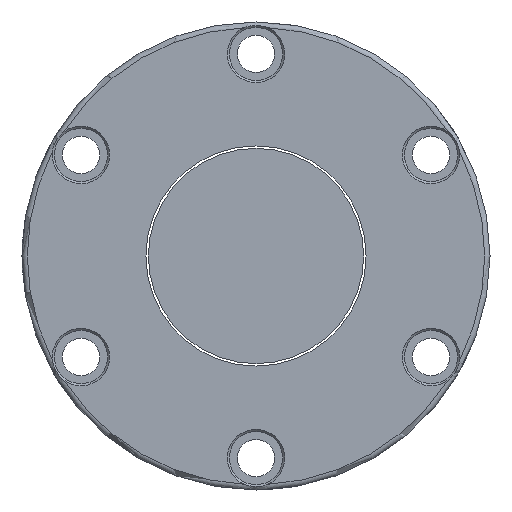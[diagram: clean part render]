
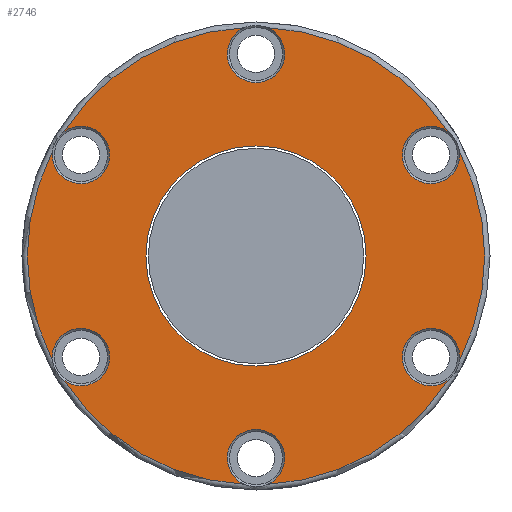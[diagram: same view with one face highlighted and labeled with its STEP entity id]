
A CAD part, left-side view. The second image highlights one B-rep face of the part: STEP entity #2746.
In plain terms, the highlighted planar face has unit normal (-1, 0, 0).
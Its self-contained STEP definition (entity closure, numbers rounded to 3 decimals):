
#67 = DIRECTION ( 'NONE',  ( 1., 0., 0. ) ) ;
#75 = DIRECTION ( 'NONE',  ( 0., 0., 1. ) ) ;
#91 = DIRECTION ( 'NONE',  ( 1., 0., 0. ) ) ;
#102 = DIRECTION ( 'NONE',  ( 0., 0., -1. ) ) ;
#179 = EDGE_LOOP ( 'NONE', ( #248, #363, #541, #3765, #2763, #1476, #3729, #749, #2344, #253, #2786, #2503 ) ) ;
#211 = CARTESIAN_POINT ( 'NONE',  ( -105., 4.338, -85.891 ) ) ;
#220 = CARTESIAN_POINT ( 'NONE',  ( -105., 72.214, -46.702 ) ) ;
#248 = ORIENTED_EDGE ( 'NONE', *, *, #2490, .T. ) ;
#253 = ORIENTED_EDGE ( 'NONE', *, *, #3041, .T. ) ;
#274 = CARTESIAN_POINT ( 'NONE',  ( -105., 0., -41.4 ) ) ;
#281 = EDGE_CURVE ( 'NONE', #2324, #2980, #2942, .T. ) ;
#309 = DIRECTION ( 'NONE',  ( -1., 0., 0. ) ) ;
#349 = DIRECTION ( 'NONE',  ( -1., 0., 0. ) ) ;
#359 = EDGE_CURVE ( 'NONE', #2054, #589, #2576, .T. ) ;
#363 = ORIENTED_EDGE ( 'NONE', *, *, #3094, .T. ) ;
#383 = CARTESIAN_POINT ( 'NONE',  ( -105., 0., 0. ) ) ;
#485 = DIRECTION ( 'NONE',  ( 1., 0., 0. ) ) ;
#503 = CARTESIAN_POINT ( 'NONE',  ( -105., -72.214, -46.702 ) ) ;
#541 = ORIENTED_EDGE ( 'NONE', *, *, #993, .T. ) ;
#563 = CARTESIAN_POINT ( 'NONE',  ( -105., 0., 0. ) ) ;
#577 = CIRCLE ( 'NONE', #2106, 10.8 ) ;
#589 = VERTEX_POINT ( 'NONE', #2486 ) ;
#619 = VERTEX_POINT ( 'NONE', #220 ) ;
#651 = CARTESIAN_POINT ( 'NONE',  ( -105., -65.818, -38. ) ) ;
#679 = DIRECTION ( 'NONE',  ( 0., 0., 1. ) ) ;
#694 = AXIS2_PLACEMENT_3D ( 'NONE', #383, #1310, #3036 ) ;
#715 = CARTESIAN_POINT ( 'NONE',  ( -105., 72.214, 46.702 ) ) ;
#749 = ORIENTED_EDGE ( 'NONE', *, *, #1560, .T. ) ;
#871 = DIRECTION ( 'NONE',  ( 0., 0., 1. ) ) ;
#875 = VERTEX_POINT ( 'NONE', #274 ) ;
#993 = EDGE_CURVE ( 'NONE', #3675, #2054, #1056, .T. ) ;
#1036 = VERTEX_POINT ( 'NONE', #1853 ) ;
#1056 = CIRCLE ( 'NONE', #1546, 10.8 ) ;
#1072 = VERTEX_POINT ( 'NONE', #3263 ) ;
#1076 = AXIS2_PLACEMENT_3D ( 'NONE', #2318, #2930, #871 ) ;
#1123 = DIRECTION ( 'NONE',  ( 0., 0., 1. ) ) ;
#1143 = CARTESIAN_POINT ( 'NONE',  ( -105., 0., 76. ) ) ;
#1146 = CARTESIAN_POINT ( 'NONE',  ( -105., -72.214, 46.702 ) ) ;
#1202 = DIRECTION ( 'NONE',  ( 0., 0., 1. ) ) ;
#1205 = CIRCLE ( 'NONE', #2840, 86. ) ;
#1240 = CARTESIAN_POINT ( 'NONE',  ( -105., -4.338, -85.891 ) ) ;
#1284 = DIRECTION ( 'NONE',  ( 0., 0., 1. ) ) ;
#1310 = DIRECTION ( 'NONE',  ( -1., 0., 0. ) ) ;
#1476 = ORIENTED_EDGE ( 'NONE', *, *, #3133, .T. ) ;
#1483 = AXIS2_PLACEMENT_3D ( 'NONE', #3622, #2387, #679 ) ;
#1502 = PLANE ( 'NONE',  #1929 ) ;
#1504 = AXIS2_PLACEMENT_3D ( 'NONE', #3721, #3739, #1960 ) ;
#1515 = CARTESIAN_POINT ( 'NONE',  ( -105., 65.818, 38. ) ) ;
#1546 = AXIS2_PLACEMENT_3D ( 'NONE', #1515, #2383, #1834 ) ;
#1560 = EDGE_CURVE ( 'NONE', #3184, #2600, #2348, .T. ) ;
#1563 = DIRECTION ( 'NONE',  ( 0., 0., 1. ) ) ;
#1569 = CIRCLE ( 'NONE', #1931, 10.8 ) ;
#1626 = CIRCLE ( 'NONE', #2893, 10.8 ) ;
#1674 = EDGE_CURVE ( 'NONE', #875, #875, #1864, .T. ) ;
#1682 = DIRECTION ( 'NONE',  ( -1., 0., 0. ) ) ;
#1732 = DIRECTION ( 'NONE',  ( 0., 0., 1. ) ) ;
#1743 = AXIS2_PLACEMENT_3D ( 'NONE', #2119, #3276, #102 ) ;
#1834 = DIRECTION ( 'NONE',  ( 0., 0., 1. ) ) ;
#1836 = EDGE_CURVE ( 'NONE', #2600, #1072, #577, .T. ) ;
#1853 = CARTESIAN_POINT ( 'NONE',  ( -105., 4.338, 85.891 ) ) ;
#1864 = CIRCLE ( 'NONE', #1743, 41.4 ) ;
#1873 = CIRCLE ( 'NONE', #2539, 86. ) ;
#1929 = AXIS2_PLACEMENT_3D ( 'NONE', #2605, #3271, #2052 ) ;
#1931 = AXIS2_PLACEMENT_3D ( 'NONE', #2065, #91, #75 ) ;
#1960 = DIRECTION ( 'NONE',  ( 0., 0., 1. ) ) ;
#2052 = DIRECTION ( 'NONE',  ( 0., 0., 1. ) ) ;
#2054 = VERTEX_POINT ( 'NONE', #3280 ) ;
#2065 = CARTESIAN_POINT ( 'NONE',  ( -105., 65.818, -38. ) ) ;
#2106 = AXIS2_PLACEMENT_3D ( 'NONE', #651, #67, #1284 ) ;
#2111 = FACE_OUTER_BOUND ( 'NONE', #179, .T. ) ;
#2119 = CARTESIAN_POINT ( 'NONE',  ( -105., 0., 0. ) ) ;
#2292 = EDGE_LOOP ( 'NONE', ( #2612 ) ) ;
#2318 = CARTESIAN_POINT ( 'NONE',  ( -105., 0., -76. ) ) ;
#2322 = VERTEX_POINT ( 'NONE', #211 ) ;
#2324 = VERTEX_POINT ( 'NONE', #3420 ) ;
#2344 = ORIENTED_EDGE ( 'NONE', *, *, #1836, .T. ) ;
#2348 = CIRCLE ( 'NONE', #3318, 86. ) ;
#2383 = DIRECTION ( 'NONE',  ( 1., 0., 0. ) ) ;
#2387 = DIRECTION ( 'NONE',  ( 1., 0., 0. ) ) ;
#2414 = AXIS2_PLACEMENT_3D ( 'NONE', #2870, #309, #1202 ) ;
#2421 = EDGE_CURVE ( 'NONE', #2980, #2895, #3144, .T. ) ;
#2479 = CIRCLE ( 'NONE', #2414, 86. ) ;
#2486 = CARTESIAN_POINT ( 'NONE',  ( -105., 76.552, -39.189 ) ) ;
#2490 = EDGE_CURVE ( 'NONE', #2895, #1036, #1626, .T. ) ;
#2503 = ORIENTED_EDGE ( 'NONE', *, *, #2421, .T. ) ;
#2539 = AXIS2_PLACEMENT_3D ( 'NONE', #2738, #349, #1563 ) ;
#2576 = CIRCLE ( 'NONE', #694, 86. ) ;
#2600 = VERTEX_POINT ( 'NONE', #503 ) ;
#2605 = CARTESIAN_POINT ( 'NONE',  ( -105., 88., 0. ) ) ;
#2612 = ORIENTED_EDGE ( 'NONE', *, *, #1674, .T. ) ;
#2718 = CIRCLE ( 'NONE', #1076, 10.8 ) ;
#2738 = CARTESIAN_POINT ( 'NONE',  ( -105., 0., 0. ) ) ;
#2746 = ADVANCED_FACE ( 'NONE', ( #2111, #2884 ), #1502, .T. ) ;
#2763 = ORIENTED_EDGE ( 'NONE', *, *, #3579, .T. ) ;
#2786 = ORIENTED_EDGE ( 'NONE', *, *, #281, .T. ) ;
#2839 = DIRECTION ( 'NONE',  ( 0., 0., 1. ) ) ;
#2840 = AXIS2_PLACEMENT_3D ( 'NONE', #563, #3760, #1732 ) ;
#2870 = CARTESIAN_POINT ( 'NONE',  ( -105., 0., 0. ) ) ;
#2884 = FACE_BOUND ( 'NONE', #2292, .T. ) ;
#2893 = AXIS2_PLACEMENT_3D ( 'NONE', #1143, #485, #1123 ) ;
#2895 = VERTEX_POINT ( 'NONE', #3216 ) ;
#2930 = DIRECTION ( 'NONE',  ( 1., 0., 0. ) ) ;
#2942 = CIRCLE ( 'NONE', #1483, 10.8 ) ;
#2980 = VERTEX_POINT ( 'NONE', #1146 ) ;
#3019 = EDGE_CURVE ( 'NONE', #2322, #3184, #2718, .T. ) ;
#3036 = DIRECTION ( 'NONE',  ( 0., 0., 1. ) ) ;
#3041 = EDGE_CURVE ( 'NONE', #1072, #2324, #2479, .T. ) ;
#3094 = EDGE_CURVE ( 'NONE', #1036, #3675, #1205, .T. ) ;
#3133 = EDGE_CURVE ( 'NONE', #619, #2322, #1873, .T. ) ;
#3144 = CIRCLE ( 'NONE', #1504, 86. ) ;
#3184 = VERTEX_POINT ( 'NONE', #1240 ) ;
#3216 = CARTESIAN_POINT ( 'NONE',  ( -105., -4.338, 85.891 ) ) ;
#3222 = CARTESIAN_POINT ( 'NONE',  ( -105., 0., 0. ) ) ;
#3263 = CARTESIAN_POINT ( 'NONE',  ( -105., -76.552, -39.189 ) ) ;
#3271 = DIRECTION ( 'NONE',  ( -1., 0., 0. ) ) ;
#3276 = DIRECTION ( 'NONE',  ( 1., 0., 0. ) ) ;
#3280 = CARTESIAN_POINT ( 'NONE',  ( -105., 76.552, 39.189 ) ) ;
#3318 = AXIS2_PLACEMENT_3D ( 'NONE', #3222, #1682, #2839 ) ;
#3420 = CARTESIAN_POINT ( 'NONE',  ( -105., -76.552, 39.189 ) ) ;
#3579 = EDGE_CURVE ( 'NONE', #589, #619, #1569, .T. ) ;
#3622 = CARTESIAN_POINT ( 'NONE',  ( -105., -65.818, 38. ) ) ;
#3675 = VERTEX_POINT ( 'NONE', #715 ) ;
#3721 = CARTESIAN_POINT ( 'NONE',  ( -105., 0., 0. ) ) ;
#3729 = ORIENTED_EDGE ( 'NONE', *, *, #3019, .T. ) ;
#3739 = DIRECTION ( 'NONE',  ( -1., 0., 0. ) ) ;
#3760 = DIRECTION ( 'NONE',  ( -1., 0., 0. ) ) ;
#3765 = ORIENTED_EDGE ( 'NONE', *, *, #359, .T. ) ;
